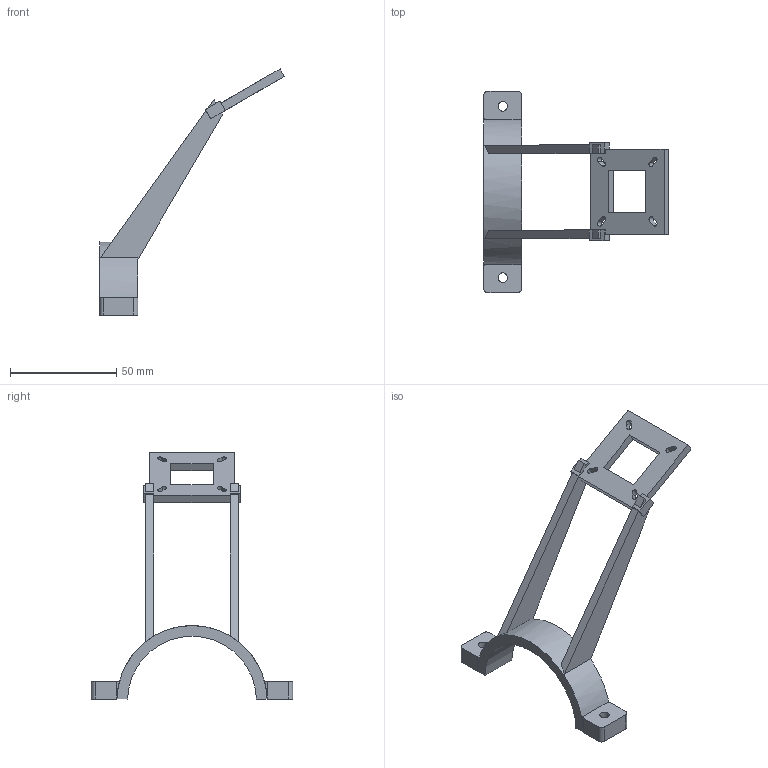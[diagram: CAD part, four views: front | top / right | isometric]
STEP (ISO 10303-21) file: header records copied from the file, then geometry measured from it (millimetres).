
FILE_DESCRIPTION(('Open CASCADE Model'),'2;1');
FILE_NAME('Open CASCADE Shape Model','2026-09-19T10:08:23',('Author'),( 'Open CASCADE'),'Open CASCADE STEP processor 7.9','Open CASCADE 7.9' ,'Unknown');
FILE_SCHEMA(('AUTOMOTIVE_DESIGN { 1 0 10303 214 1 1 1 1 }'));
Length unit declared in the file: millimetre
Products named in the file (1): Open CASCADE STEP translator 7.9 5
Bounding box: 86.82 x 94.6 x 115.75 mm (x, y, z)
Volume: 24513.1 mm3; surface area: 14592.4 mm2
Topology: 1 solids, 1 shells, 74 faces, 222 edges, 148 vertices
Faces by surface type: plane 54, cylinder 20
Full cylindrical faces by diameter (mm): 4.5 x2
Entity records: 5654 total; most frequent: CARTESIAN_POINT 1353, DIRECTION 760, LINE 506, VECTOR 506, ORIENTED_EDGE 444, PCURVE 444, DEFINITIONAL_REPRESENTATION 444, EDGE_CURVE 222
